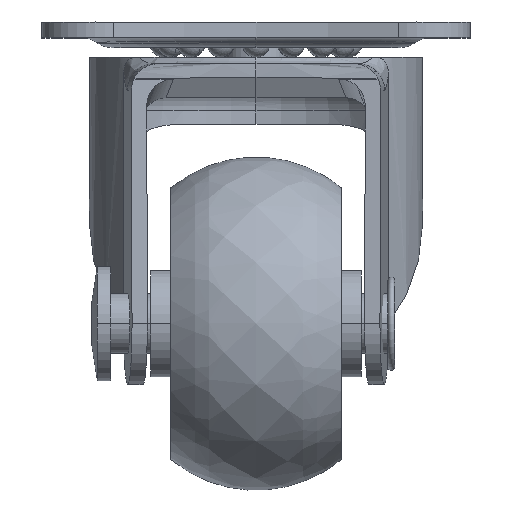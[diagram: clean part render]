
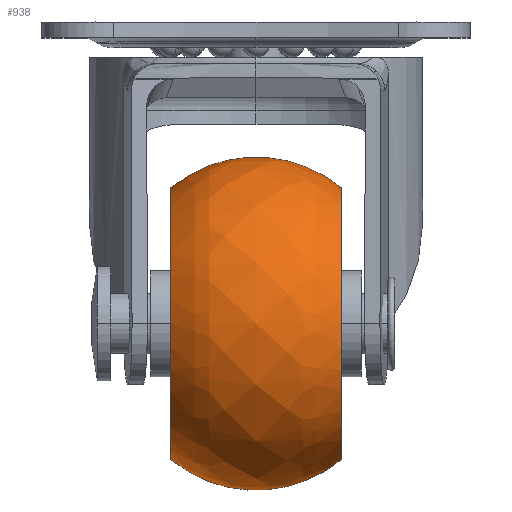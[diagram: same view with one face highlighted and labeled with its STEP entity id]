
A CAD part, top view. The second image highlights one B-rep face of the part: STEP entity #938.
In plain terms, the highlighted free-form (B-spline) face has degree [2, 2] with [3, 9] control points.
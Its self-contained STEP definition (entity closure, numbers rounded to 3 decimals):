
#67 = CARTESIAN_POINT ( 'NONE',  ( -6.4, 0., 10.184 ) ) ;
#175 = DIRECTION ( 'NONE',  ( -1., 0., 0. ) ) ;
#246 = CARTESIAN_POINT ( 'NONE',  ( -6.4, -10.184, -10.184 ) ) ;
#307 = CARTESIAN_POINT ( 'NONE',  ( 0., 15.514, 15.514 ) ) ;
#332 = EDGE_LOOP ( 'NONE', ( #3674, #3661, #4574, #3586 ) ) ;
#342 = CARTESIAN_POINT ( 'NONE',  ( 0., -15.514, 0. ) ) ;
#424 =( BOUNDED_CURVE ( )  B_SPLINE_CURVE ( 2, ( #5753, #4162, #5272 ),
 .UNSPECIFIED., .F., .F. ) 
 B_SPLINE_CURVE_WITH_KNOTS ( ( 3, 3 ),
 ( -0.694, 0.694 ),
 .UNSPECIFIED. ) 
 CURVE ( )  GEOMETRIC_REPRESENTATION_ITEM ( )  RATIONAL_B_SPLINE_CURVE ( ( 1., 0.768, 1. ) ) 
 REPRESENTATION_ITEM ( '' )  );
#750 = CARTESIAN_POINT ( 'NONE',  ( 6.4, -10.184, 0. ) ) ;
#823 = CARTESIAN_POINT ( 'NONE',  ( 6.4, 0., -10.184 ) ) ;
#854 = CARTESIAN_POINT ( 'NONE',  ( 6.4, 10.184, 10.184 ) ) ;
#938 = ADVANCED_FACE ( 'NONE', ( #1284 ), #2377, .F. ) ;
#1049 = VERTEX_POINT ( 'NONE', #67 ) ;
#1284 = FACE_OUTER_BOUND ( 'NONE', #332, .T. ) ;
#1426 = CARTESIAN_POINT ( 'NONE',  ( 0., 0., -15.514 ) ) ;
#1470 = CARTESIAN_POINT ( 'NONE',  ( -6.4, 0., 0. ) ) ;
#1505 = CARTESIAN_POINT ( 'NONE',  ( 6.4, 0., 10.184 ) ) ;
#1600 = CIRCLE ( 'NONE', #5397, 10.184 ) ;
#1761 = EDGE_CURVE ( 'NONE', #6026, #3461, #6503, .T. ) ;
#1817 = CARTESIAN_POINT ( 'NONE',  ( 6.4, -10.184, 10.184 ) ) ;
#1930 = CARTESIAN_POINT ( 'NONE',  ( 6.4, 0., -10.184 ) ) ;
#2336 = CARTESIAN_POINT ( 'NONE',  ( 6.4, 10.184, 0. ) ) ;
#2368 = CARTESIAN_POINT ( 'NONE',  ( -6.4, -10.184, 10.184 ) ) ;
#2377 =( BOUNDED_SURFACE ( )  B_SPLINE_SURFACE ( 2, 2, ( 
 ( #823, #6072, #750, #1817, #6586, #854, #2336, #3470, #1930 ),
 ( #5966, #5422, #342, #4477, #6553, #307, #5524, #3860, #1426 ),
 ( #2829, #246, #6443, #2368, #4440, #4328, #3448, #4642, #6662 ) ),
 .UNSPECIFIED., .F., .T., .F. ) 
 B_SPLINE_SURFACE_WITH_KNOTS ( ( 3, 3 ),
 ( 3, 2, 2, 2, 3 ),
 ( -0.694, 0.694 ),
 ( -3.142, -1.571, 0., 1.571, 3.142 ),
 .UNSPECIFIED. ) 
 GEOMETRIC_REPRESENTATION_ITEM ( )  RATIONAL_B_SPLINE_SURFACE ( (
 ( 1., 0.707, 1., 0.707, 1., 0.707, 1., 0.707, 1.),
 ( 0.768, 0.543, 0.768, 0.543, 0.768, 0.543, 0.768, 0.543, 0.768),
 ( 1., 0.707, 1., 0.707, 1., 0.707, 1., 0.707, 1.) ) ) 
 REPRESENTATION_ITEM ( '' )  SURFACE ( )  );
#2829 = CARTESIAN_POINT ( 'NONE',  ( -6.4, 0., -10.184 ) ) ;
#3117 = EDGE_CURVE ( 'NONE', #4018, #6026, #3595, .T. ) ;
#3448 = CARTESIAN_POINT ( 'NONE',  ( -6.4, 10.184, 0. ) ) ;
#3461 = VERTEX_POINT ( 'NONE', #5681 ) ;
#3470 = CARTESIAN_POINT ( 'NONE',  ( 6.4, 10.184, -10.184 ) ) ;
#3489 = DIRECTION ( 'NONE',  ( 0., 0., 1. ) ) ;
#3586 = ORIENTED_EDGE ( 'NONE', *, *, #3986, .F. ) ;
#3595 = CIRCLE ( 'NONE', #3795, 10.184 ) ;
#3651 = CARTESIAN_POINT ( 'NONE',  ( 6.4, 0., -10.184 ) ) ;
#3661 = ORIENTED_EDGE ( 'NONE', *, *, #3117, .T. ) ;
#3674 = ORIENTED_EDGE ( 'NONE', *, *, #5292, .F. ) ;
#3795 = AXIS2_PLACEMENT_3D ( 'NONE', #5378, #175, #5316 ) ;
#3860 = CARTESIAN_POINT ( 'NONE',  ( 0., 15.514, -15.514 ) ) ;
#3986 = EDGE_CURVE ( 'NONE', #1049, #3461, #1600, .T. ) ;
#4018 = VERTEX_POINT ( 'NONE', #1505 ) ;
#4162 = CARTESIAN_POINT ( 'NONE',  ( 0., 0., 15.514 ) ) ;
#4328 = CARTESIAN_POINT ( 'NONE',  ( -6.4, 10.184, 10.184 ) ) ;
#4440 = CARTESIAN_POINT ( 'NONE',  ( -6.4, 0., 10.184 ) ) ;
#4473 = CARTESIAN_POINT ( 'NONE',  ( 6.4, 0., -10.184 ) ) ;
#4477 = CARTESIAN_POINT ( 'NONE',  ( 0., -15.514, 15.514 ) ) ;
#4574 = ORIENTED_EDGE ( 'NONE', *, *, #1761, .T. ) ;
#4642 = CARTESIAN_POINT ( 'NONE',  ( -6.4, 10.184, -10.184 ) ) ;
#4660 = DIRECTION ( 'NONE',  ( -1., 0., 0. ) ) ;
#4881 = CARTESIAN_POINT ( 'NONE',  ( 0., 0., -15.514 ) ) ;
#5272 = CARTESIAN_POINT ( 'NONE',  ( -6.4, 0., 10.184 ) ) ;
#5292 = EDGE_CURVE ( 'NONE', #4018, #1049, #424, .T. ) ;
#5316 = DIRECTION ( 'NONE',  ( 0., 0., 1. ) ) ;
#5378 = CARTESIAN_POINT ( 'NONE',  ( 6.4, 0., 0. ) ) ;
#5397 = AXIS2_PLACEMENT_3D ( 'NONE', #1470, #4660, #3489 ) ;
#5422 = CARTESIAN_POINT ( 'NONE',  ( 0., -15.514, -15.514 ) ) ;
#5480 = CARTESIAN_POINT ( 'NONE',  ( -6.4, 0., -10.184 ) ) ;
#5524 = CARTESIAN_POINT ( 'NONE',  ( 0., 15.514, 0. ) ) ;
#5681 = CARTESIAN_POINT ( 'NONE',  ( -6.4, 0., -10.184 ) ) ;
#5753 = CARTESIAN_POINT ( 'NONE',  ( 6.4, 0., 10.184 ) ) ;
#5966 = CARTESIAN_POINT ( 'NONE',  ( 0., 0., -15.514 ) ) ;
#6026 = VERTEX_POINT ( 'NONE', #3651 ) ;
#6072 = CARTESIAN_POINT ( 'NONE',  ( 6.4, -10.184, -10.184 ) ) ;
#6443 = CARTESIAN_POINT ( 'NONE',  ( -6.4, -10.184, 0. ) ) ;
#6503 =( BOUNDED_CURVE ( )  B_SPLINE_CURVE ( 2, ( #4473, #4881, #5480 ),
 .UNSPECIFIED., .F., .F. ) 
 B_SPLINE_CURVE_WITH_KNOTS ( ( 3, 3 ),
 ( -0.694, 0.694 ),
 .UNSPECIFIED. ) 
 CURVE ( )  GEOMETRIC_REPRESENTATION_ITEM ( )  RATIONAL_B_SPLINE_CURVE ( ( 1., 0.768, 1. ) ) 
 REPRESENTATION_ITEM ( '' )  );
#6553 = CARTESIAN_POINT ( 'NONE',  ( 0., 0., 15.514 ) ) ;
#6586 = CARTESIAN_POINT ( 'NONE',  ( 6.4, 0., 10.184 ) ) ;
#6662 = CARTESIAN_POINT ( 'NONE',  ( -6.4, 0., -10.184 ) ) ;
